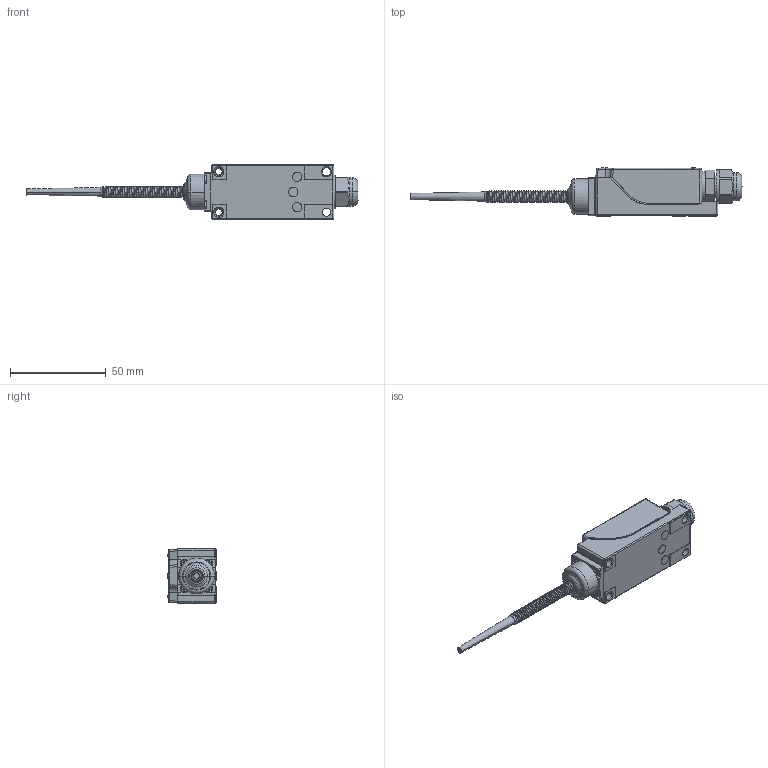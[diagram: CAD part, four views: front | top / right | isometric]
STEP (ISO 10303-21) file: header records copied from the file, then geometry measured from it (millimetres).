
FILE_DESCRIPTION((''),'2;1');
FILE_NAME('CZ-8104N','2024-01-04T',('Administrator'),(''),'CREO PARAMETRIC BY PTC INC, 2017300','CREO PARAMETRIC BY PTC INC, 2017300','');
FILE_SCHEMA(('CONFIG_CONTROL_DESIGN'));
Products named in the file (19): CZ-8ｻ_6_1_2_3_4_5_6_7; ｵﾗﾗﾜｷ秬16_1_2_3_4_5_6_7_8; CZ-8ｻﾇ_13_1_2_3_4_5_6_7; CZ-8ﾂﾝﾎﾆ_4_1_2_3_4_5_6_7; CZ-8ﾂﾝﾎﾆﾈ鈊ﾜ_3_1_2_3_4_5__7; CZ-8ﾂﾝﾎﾆﾈ獷3_1_2_3_4_5_6_7; CZ-8Nﾂﾝﾎﾆ_6_1_2_3_4_5_6_7; ｳﾁﾍｷﾂﾝｶ､_4_1_2_3_4_5_6_7_8; ｳﾁﾍｷﾂﾝｶ､M_4_1_2_3_4_5_6_7_8; CZ-8Nｻ5_1_2_3_4_5_6_7; CZ-8166呿蹋_7; 7166芛杶_3; 麥芛蹟隊M2_3_1_2_3; CZ-8166芛粟_3; CZ-8166粟銅_2; CZ-8166牷梟_8; CZ-8166N_5; CZ-8166N; CZ-8104N
Assembly tree (22 placements, depth 6):
  CZ-8104N
    CZ-8166N
      CZ-8166N_5
        CZ-8Nｻ5_1_2_3_4_5_6_7
          CZ-8ｻ_6_1_2_3_4_5_6_7
          ｵﾗﾗﾜｷ秬16_1_2_3_4_5_6_7_8
          CZ-8ｻﾇ_13_1_2_3_4_5_6_7
          CZ-8Nﾂﾝﾎﾆ_6_1_2_3_4_5_6_7
            CZ-8ﾂﾝﾎﾆ_4_1_2_3_4_5_6_7
            CZ-8ﾂﾝﾎﾆﾈ鈊ﾜ_3_1_2_3_4_5__7
            CZ-8ﾂﾝﾎﾆﾈ獷3_1_2_3_4_5_6_7
          ｳﾁﾍｷﾂﾝｶ､_4_1_2_3_4_5_6_7_8
          ｳﾁﾍｷﾂﾝｶ､M_4_1_2_3_4_5_6_7_8  x2
        CZ-8166呿蹋_7
        7166芛杶_3
        麥芛蹟隊M2_3_1_2_3  x4
        CZ-8166牷梟_8
          CZ-8166芛粟_3
          CZ-8166粟銅_2
Bounding box: 172.98 x 25.26 x 28.47 mm (x, y, z)
Volume: 22568.8 mm3; surface area: 28467.3 mm2
Topology: 17 solids, 17 shells, 1430 faces, 3852 edges, 2522 vertices
Faces by surface type: plane 664, cylinder 468, bspline 151, cone 108, torus 24, sphere 8, extrusion 7
Entity records: 64459 total; most frequent: CARTESIAN_POINT 31538, ORIENTED_EDGE 6462, DIRECTION 5808, EDGE_CURVE 3231, VERTEX_POINT 2124, AXIS2_PLACEMENT_3D 2002, VECTOR 1804, LINE 1801
